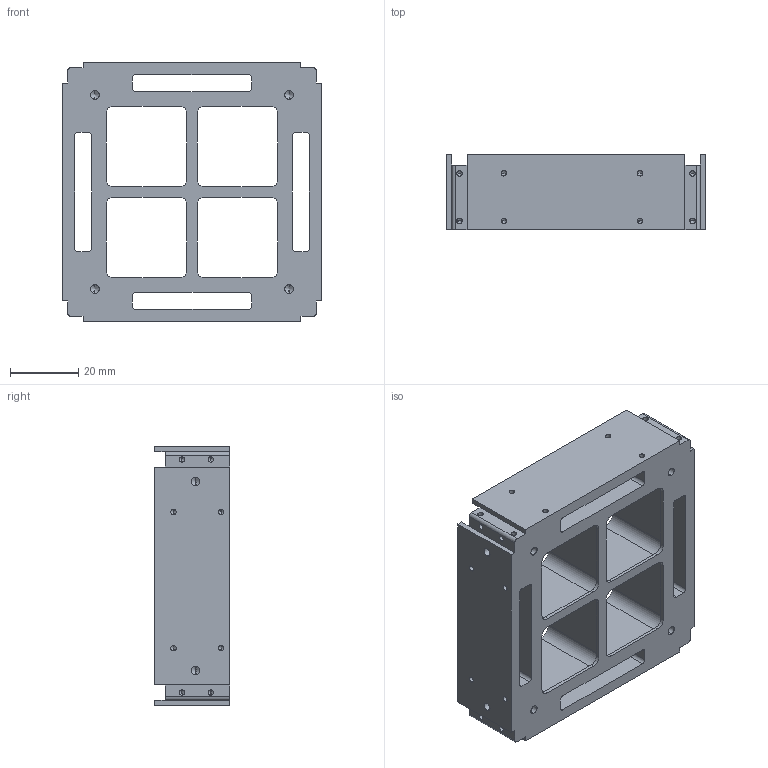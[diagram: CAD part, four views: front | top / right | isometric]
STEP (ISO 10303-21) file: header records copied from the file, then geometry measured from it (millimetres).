
FILE_DESCRIPTION (( 'STEP AP214' ), '1' );
FILE_NAME ('Detector_Frame.STEP', '2025-01-13T17:25:19', ( '' ), ( '' ), 'SwSTEP 2.0', 'SolidWorks 2022', '' );
FILE_SCHEMA (( 'AUTOMOTIVE_DESIGN' ));
Length unit declared in the file: millimetre
Products named in the file (1): Detector_Frame
Bounding box: 76 x 22.1 x 76 mm (x, y, z)
Volume: 47583.4 mm3; surface area: 29547.2 mm2
Topology: 1 solids, 1 shells, 359 faces, 912 edges, 520 vertices
Faces by surface type: cylinder 136, cone 136, plane 87
Entity records: 11108 total; most frequent: DIRECTION 1880, CARTESIAN_POINT 1712, ORIENTED_EDGE 1664, EDGE_CURVE 832, AXIS2_PLACEMENT_3D 688, VERTEX_POINT 520, LINE 504, VECTOR 504
